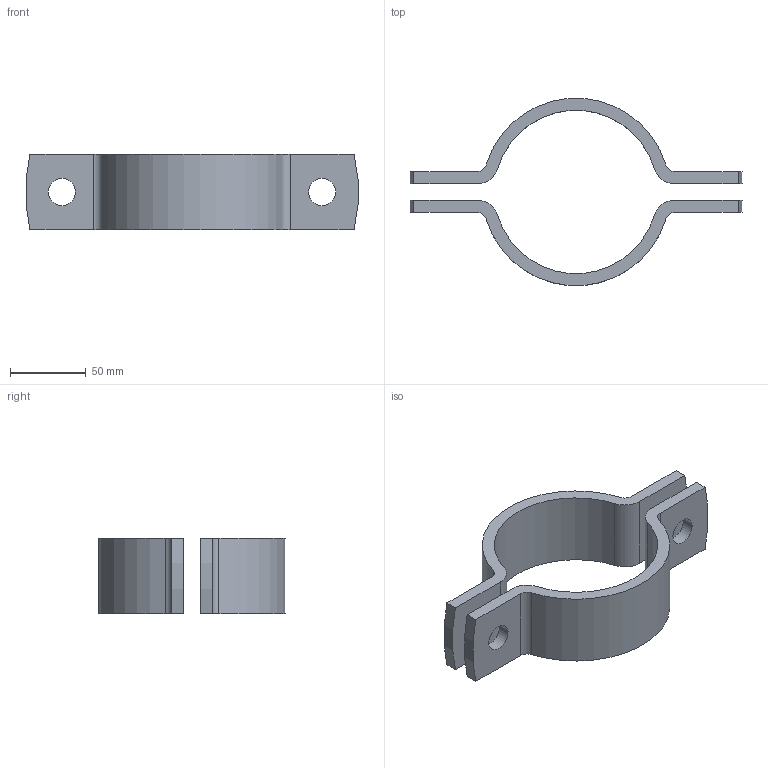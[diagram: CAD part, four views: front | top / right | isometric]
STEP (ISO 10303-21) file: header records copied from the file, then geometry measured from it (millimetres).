
FILE_DESCRIPTION (( 'STEP AP203' ), '1' );
FILE_NAME ('NW100-108 (DIN 3567).STEP', '2023-12-08T11:32:39', ( '' ), ( '' ), 'SwSTEP 2.0', 'SolidWorks 2023', '' );
FILE_SCHEMA (( 'CONFIG_CONTROL_DESIGN' ));
Length unit declared in the file: millimetre
Products named in the file (1): NW100-108 (DIN 3567)
Bounding box: 219.36 x 123.55 x 50 mm (x, y, z)
Volume: 201357.7 mm3; surface area: 62020 mm2
Topology: 2 solids, 2 shells, 36 faces, 96 edges, 64 vertices
Faces by surface type: cylinder 24, plane 12
Entity records: 1239 total; most frequent: DIRECTION 218, CARTESIAN_POINT 197, ORIENTED_EDGE 192, EDGE_CURVE 96, AXIS2_PLACEMENT_3D 85, VERTEX_POINT 64, LINE 48, VECTOR 48
